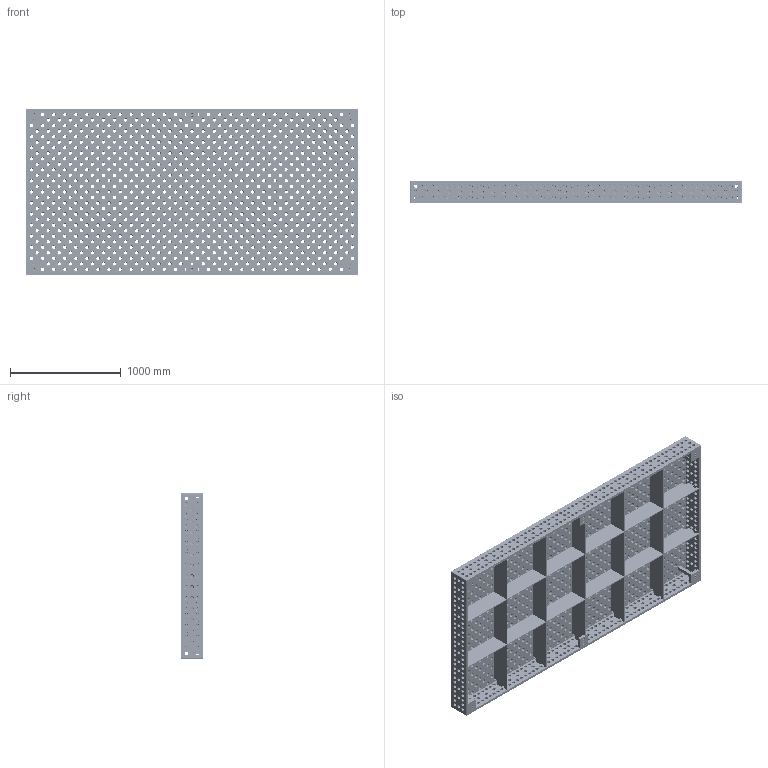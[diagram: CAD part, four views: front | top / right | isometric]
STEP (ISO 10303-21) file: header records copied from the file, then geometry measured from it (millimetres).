
FILE_DESCRIPTION (( 'STEP AP203' ), '1' );
FILE_NAME ('280040.XD7D.STEP', '2020-11-30T14:21:06', ( '' ), ( '' ), 'SwSTEP 2.0', 'SolidWorks 2019', '' );
FILE_SCHEMA (( 'CONFIG_CONTROL_DESIGN' ));
Products named in the file (1): 280040.XD7D
Bounding box: 3000 x 200 x 1500 mm (x, y, z)
Volume: 149352756.1 mm3; surface area: 17803344.3 mm2
Topology: 1 solids, 1 shells, 8097 faces, 19087 edges, 10966 vertices
Faces by surface type: cylinder 2683, cone 2660, torus 2600, plane 146, bspline 8
Entity records: 240240 total; most frequent: DIRECTION 48477, CARTESIAN_POINT 39491, ORIENTED_EDGE 38174, AXIS2_PLACEMENT_3D 21316, EDGE_CURVE 19087, CIRCLE 13226, VERTEX_POINT 10966, EDGE_LOOP 10767
